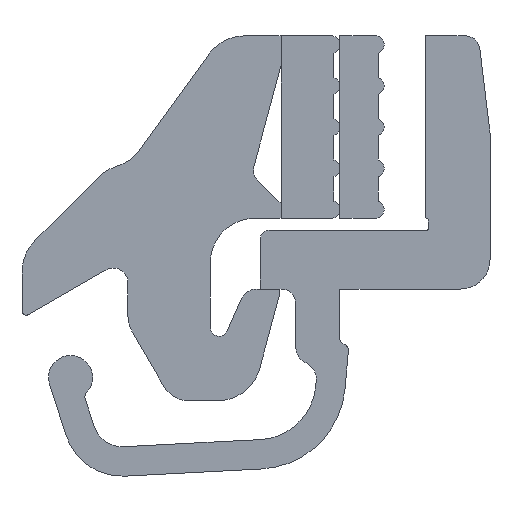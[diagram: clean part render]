
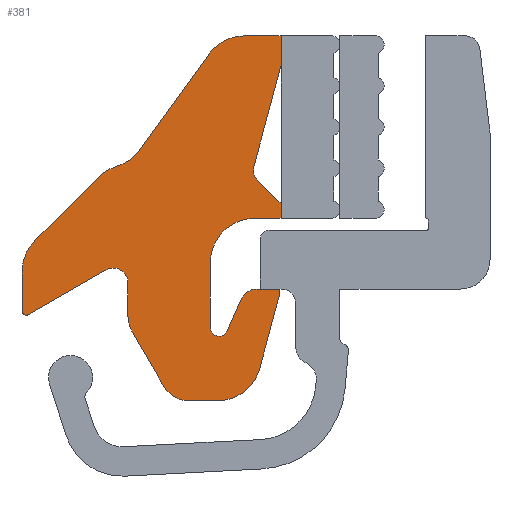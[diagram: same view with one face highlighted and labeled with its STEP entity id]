
A CAD part, front view. The second image highlights one B-rep face of the part: STEP entity #381.
In plain terms, the highlighted planar face has unit normal (0, -1, 0).
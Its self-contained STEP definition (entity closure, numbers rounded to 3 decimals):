
#381=ADVANCED_FACE('',(#715),#716,.T.);
#715=FACE_OUTER_BOUND('',#1039,.T.);
#716=PLANE('',#1040);
#1039=EDGE_LOOP('',(#1780,#1781,#1782,#1783,#1784,#1785,#1786,#1787,#1788,#1789,#1790,#1791,#1792,#1793,#1794,#1795,#1796,#1797,#1798,#1799,#1800,#1801,#1802,#1803,#1804,#1805,#1806,#1807,#1808,#1809,#1810));
#1040=AXIS2_PLACEMENT_3D('',#1811,#1812,#1813);
#1780=ORIENTED_EDGE('',*,*,#2258,.T.);
#1781=ORIENTED_EDGE('',*,*,#2261,.T.);
#1782=ORIENTED_EDGE('',*,*,#2264,.T.);
#1783=ORIENTED_EDGE('',*,*,#2267,.T.);
#1784=ORIENTED_EDGE('',*,*,#2270,.T.);
#1785=ORIENTED_EDGE('',*,*,#2273,.T.);
#1786=ORIENTED_EDGE('',*,*,#2276,.T.);
#1787=ORIENTED_EDGE('',*,*,#2279,.T.);
#1788=ORIENTED_EDGE('',*,*,#2282,.T.);
#1789=ORIENTED_EDGE('',*,*,#2285,.T.);
#1790=ORIENTED_EDGE('',*,*,#2288,.T.);
#1791=ORIENTED_EDGE('',*,*,#2291,.T.);
#1792=ORIENTED_EDGE('',*,*,#2294,.T.);
#1793=ORIENTED_EDGE('',*,*,#2297,.T.);
#1794=ORIENTED_EDGE('',*,*,#2300,.T.);
#1795=ORIENTED_EDGE('',*,*,#2303,.T.);
#1796=ORIENTED_EDGE('',*,*,#2306,.T.);
#1797=ORIENTED_EDGE('',*,*,#2309,.T.);
#1798=ORIENTED_EDGE('',*,*,#2312,.T.);
#1799=ORIENTED_EDGE('',*,*,#2315,.T.);
#1800=ORIENTED_EDGE('',*,*,#2318,.T.);
#1801=ORIENTED_EDGE('',*,*,#2321,.T.);
#1802=ORIENTED_EDGE('',*,*,#2324,.T.);
#1803=ORIENTED_EDGE('',*,*,#2327,.T.);
#1804=ORIENTED_EDGE('',*,*,#2330,.T.);
#1805=ORIENTED_EDGE('',*,*,#2333,.T.);
#1806=ORIENTED_EDGE('',*,*,#2336,.T.);
#1807=ORIENTED_EDGE('',*,*,#2339,.T.);
#1808=ORIENTED_EDGE('',*,*,#2342,.T.);
#1809=ORIENTED_EDGE('',*,*,#2255,.T.);
#1810=ORIENTED_EDGE('',*,*,#2219,.T.);
#1811=CARTESIAN_POINT('',(6.7,0.0,2.495));
#1812=DIRECTION('',(0.0,-1.0,0.0));
#1813=DIRECTION('',(-1.0,0.0,0.0));
#2219=EDGE_CURVE('',#2663,#2664,#2665,.T.);
#2255=EDGE_CURVE('',#2732,#2663,#2733,.T.);
#2258=EDGE_CURVE('',#2664,#2736,#2737,.T.);
#2261=EDGE_CURVE('',#2736,#2740,#2741,.T.);
#2264=EDGE_CURVE('',#2740,#2744,#2745,.T.);
#2267=EDGE_CURVE('',#2744,#2748,#2749,.T.);
#2270=EDGE_CURVE('',#2748,#2752,#2753,.T.);
#2273=EDGE_CURVE('',#2752,#2756,#2757,.T.);
#2276=EDGE_CURVE('',#2756,#2760,#2761,.T.);
#2279=EDGE_CURVE('',#2760,#2764,#2765,.T.);
#2282=EDGE_CURVE('',#2764,#2768,#2769,.T.);
#2285=EDGE_CURVE('',#2768,#2772,#2773,.T.);
#2288=EDGE_CURVE('',#2772,#2776,#2777,.T.);
#2291=EDGE_CURVE('',#2776,#2780,#2781,.T.);
#2294=EDGE_CURVE('',#2780,#2784,#2785,.T.);
#2297=EDGE_CURVE('',#2784,#2788,#2789,.T.);
#2300=EDGE_CURVE('',#2788,#2792,#2793,.T.);
#2303=EDGE_CURVE('',#2792,#2796,#2797,.T.);
#2306=EDGE_CURVE('',#2796,#2800,#2801,.T.);
#2309=EDGE_CURVE('',#2800,#2804,#2805,.T.);
#2312=EDGE_CURVE('',#2804,#2808,#2809,.T.);
#2315=EDGE_CURVE('',#2808,#2812,#2813,.T.);
#2318=EDGE_CURVE('',#2812,#2816,#2817,.T.);
#2321=EDGE_CURVE('',#2816,#2820,#2821,.T.);
#2324=EDGE_CURVE('',#2820,#2824,#2825,.T.);
#2327=EDGE_CURVE('',#2824,#2828,#2829,.T.);
#2330=EDGE_CURVE('',#2828,#2832,#2833,.T.);
#2333=EDGE_CURVE('',#2832,#2836,#2837,.T.);
#2336=EDGE_CURVE('',#2836,#2840,#2841,.T.);
#2339=EDGE_CURVE('',#2840,#2844,#2845,.T.);
#2342=EDGE_CURVE('',#2844,#2732,#2848,.T.);
#2663=VERTEX_POINT('',#3291);
#2664=VERTEX_POINT('',#3292);
#2665=CIRCLE('',#3293,0.6);
#2732=VERTEX_POINT('',#3379);
#2733=LINE('',#3380,#3381);
#2736=VERTEX_POINT('',#3385);
#2737=LINE('',#3386,#3387);
#2740=VERTEX_POINT('',#3391);
#2741=CIRCLE('',#3392,0.3);
#2744=VERTEX_POINT('',#3396);
#2745=LINE('',#3397,#3398);
#2748=VERTEX_POINT('',#3402);
#2749=CIRCLE('',#3403,1.5);
#2752=VERTEX_POINT('',#3407);
#2753=LINE('',#3408,#3409);
#2756=VERTEX_POINT('',#3413);
#2757=LINE('',#3414,#3415);
#2760=VERTEX_POINT('',#3419);
#2761=LINE('',#3420,#3421);
#2764=VERTEX_POINT('',#3425);
#2765=CIRCLE('',#3426,0.5);
#2768=VERTEX_POINT('',#3430);
#2769=LINE('',#3431,#3432);
#2772=VERTEX_POINT('',#3436);
#2773=LINE('',#3437,#3438);
#2776=VERTEX_POINT('',#3442);
#2777=LINE('',#3443,#3444);
#2780=VERTEX_POINT('',#3448);
#2781=CIRCLE('',#3449,1.5);
#2784=VERTEX_POINT('',#3453);
#2785=LINE('',#3454,#3455);
#2788=VERTEX_POINT('',#3459);
#2789=CIRCLE('',#3460,1.5);
#2792=VERTEX_POINT('',#3464);
#2793=CIRCLE('',#3465,1.5);
#2796=VERTEX_POINT('',#3469);
#2797=LINE('',#3470,#3471);
#2800=VERTEX_POINT('',#3475);
#2801=CIRCLE('',#3476,1.5);
#2804=VERTEX_POINT('',#3480);
#2805=LINE('',#3481,#3482);
#2808=VERTEX_POINT('',#3486);
#2809=CIRCLE('',#3487,0.15);
#2812=VERTEX_POINT('',#3491);
#2813=LINE('',#3492,#3493);
#2816=VERTEX_POINT('',#3497);
#2817=CIRCLE('',#3498,0.5);
#2820=VERTEX_POINT('',#3502);
#2821=LINE('',#3503,#3504);
#2824=VERTEX_POINT('',#3508);
#2825=CIRCLE('',#3509,1.);
#2828=VERTEX_POINT('',#3513);
#2829=LINE('',#3514,#3515);
#2832=VERTEX_POINT('',#3519);
#2833=CIRCLE('',#3520,1.);
#2836=VERTEX_POINT('',#3524);
#2837=LINE('',#3525,#3526);
#2840=VERTEX_POINT('',#3530);
#2841=CIRCLE('',#3531,1.5);
#2844=VERTEX_POINT('',#3535);
#2845=LINE('',#3536,#3537);
#2848=CIRCLE('',#3541,0.12);
#3291=CARTESIAN_POINT('',(7.992,0.0,3.8));
#3292=CARTESIAN_POINT('',(7.443,0.0,3.441));
#3293=AXIS2_PLACEMENT_3D('',#3919,#3920,#3921);
#3379=CARTESIAN_POINT('',(8.644,0.0,3.8));
#3380=CARTESIAN_POINT('',(8.644,0.0,3.8));
#3381=VECTOR('',#3983,1.0);
#3385=CARTESIAN_POINT('',(6.96,0.0,2.345));
#3386=CARTESIAN_POINT('',(7.443,0.0,3.441));
#3387=VECTOR('',#3985,1.0);
#3391=CARTESIAN_POINT('',(6.4,0.0,2.495));
#3392=AXIS2_PLACEMENT_3D('',#3987,#3988,#3989);
#3396=CARTESIAN_POINT('',(6.4,0.0,4.7));
#3397=CARTESIAN_POINT('',(6.4,0.0,2.495));
#3398=VECTOR('',#3991,1.0);
#3402=CARTESIAN_POINT('',(7.9,0.0,6.2));
#3403=AXIS2_PLACEMENT_3D('',#3993,#3994,#3995);
#3407=CARTESIAN_POINT('',(8.8,0.0,6.2));
#3408=CARTESIAN_POINT('',(7.9,0.0,6.2));
#3409=VECTOR('',#3997,1.0);
#3413=CARTESIAN_POINT('',(8.8,0.0,6.7));
#3414=CARTESIAN_POINT('',(8.8,0.0,6.2));
#3415=VECTOR('',#3999,1.0);
#3419=CARTESIAN_POINT('',(8.011,0.0,7.489));
#3420=CARTESIAN_POINT('',(8.8,0.0,6.7));
#3421=VECTOR('',#4001,1.0);
#3425=CARTESIAN_POINT('',(7.881,0.0,7.972));
#3426=AXIS2_PLACEMENT_3D('',#4003,#4004,#4005);
#3430=CARTESIAN_POINT('',(8.8,0.0,11.4));
#3431=CARTESIAN_POINT('',(7.881,0.0,7.972));
#3432=VECTOR('',#4007,1.0);
#3436=CARTESIAN_POINT('',(8.8,0.0,12.4));
#3437=CARTESIAN_POINT('',(8.8,0.0,11.4));
#3438=VECTOR('',#4009,1.0);
#3442=CARTESIAN_POINT('',(7.564,0.0,12.4));
#3443=CARTESIAN_POINT('',(8.8,0.0,12.4));
#3444=VECTOR('',#4011,1.0);
#3448=CARTESIAN_POINT('',(6.351,0.0,11.782));
#3449=AXIS2_PLACEMENT_3D('',#4013,#4014,#4015);
#3453=CARTESIAN_POINT('',(3.98,0.0,8.518));
#3454=CARTESIAN_POINT('',(6.351,0.0,11.782));
#3455=VECTOR('',#4017,1.0);
#3459=CARTESIAN_POINT('',(3.211,0.0,7.968));
#3460=AXIS2_PLACEMENT_3D('',#4019,#4020,#4021);
#3464=CARTESIAN_POINT('',(2.596,0.0,7.596));
#3465=AXIS2_PLACEMENT_3D('',#4023,#4024,#4025);
#3469=CARTESIAN_POINT('',(0.439,0.0,5.439));
#3470=CARTESIAN_POINT('',(2.596,0.0,7.596));
#3471=VECTOR('',#4027,1.0);
#3475=CARTESIAN_POINT('',(0.,0.0,4.379));
#3476=AXIS2_PLACEMENT_3D('',#4029,#4030,#4031);
#3480=CARTESIAN_POINT('',(0.,0.0,3.06));
#3481=CARTESIAN_POINT('',(0.,0.0,4.379));
#3482=VECTOR('',#4033,1.0);
#3486=CARTESIAN_POINT('',(0.225,0.0,2.93));
#3487=AXIS2_PLACEMENT_3D('',#4035,#4036,#4037);
#3491=CARTESIAN_POINT('',(2.85,0.0,4.445));
#3492=CARTESIAN_POINT('',(0.225,0.0,2.93));
#3493=VECTOR('',#4039,1.0);
#3497=CARTESIAN_POINT('',(3.6,0.0,4.012));
#3498=AXIS2_PLACEMENT_3D('',#4041,#4042,#4043);
#3502=CARTESIAN_POINT('',(3.6,0.0,2.868));
#3503=CARTESIAN_POINT('',(3.6,0.0,4.012));
#3504=VECTOR('',#4045,1.0);
#3508=CARTESIAN_POINT('',(3.734,0.0,2.368));
#3509=AXIS2_PLACEMENT_3D('',#4047,#4048,#4049);
#3513=CARTESIAN_POINT('',(4.812,0.0,0.5));
#3514=CARTESIAN_POINT('',(3.734,0.0,2.368));
#3515=VECTOR('',#4051,1.0);
#3519=CARTESIAN_POINT('',(5.678,0.0,0.));
#3520=AXIS2_PLACEMENT_3D('',#4053,#4054,#4055);
#3524=CARTESIAN_POINT('',(6.631,0.0,0.));
#3525=CARTESIAN_POINT('',(5.678,0.0,0.));
#3526=VECTOR('',#4057,1.0);
#3530=CARTESIAN_POINT('',(8.08,0.0,1.112));
#3531=AXIS2_PLACEMENT_3D('',#4059,#4060,#4061);
#3535=CARTESIAN_POINT('',(8.76,0.0,3.649));
#3536=CARTESIAN_POINT('',(8.08,0.0,1.112));
#3537=VECTOR('',#4063,1.0);
#3541=AXIS2_PLACEMENT_3D('',#4065,#4066,#4067);
#3919=CARTESIAN_POINT('',(7.992,0.0,3.2));
#3920=DIRECTION('',(0.0,-1.0,0.0));
#3921=DIRECTION('',(1.0,0.0,0.0));
#3983=DIRECTION('',(-1.0,0.0,0.));
#3985=DIRECTION('',(-0.403,0.0,-0.915));
#3987=CARTESIAN_POINT('',(6.7,0.0,2.495));
#3988=DIRECTION('',(0.0,1.0,0.0));
#3989=DIRECTION('',(-1.0,0.0,0.0));
#3991=DIRECTION('',(0.,0.0,1.0));
#3993=CARTESIAN_POINT('',(7.9,0.0,4.7));
#3994=DIRECTION('',(0.0,1.0,0.0));
#3995=DIRECTION('',(-1.0,0.0,0.0));
#3997=DIRECTION('',(1.0,0.0,0.0));
#3999=DIRECTION('',(0.0,0.0,1.0));
#4001=DIRECTION('',(-0.707,0.0,0.707));
#4003=CARTESIAN_POINT('',(8.364,0.0,7.843));
#4004=DIRECTION('',(0.0,1.0,0.0));
#4005=DIRECTION('',(-1.0,0.0,0.0));
#4007=DIRECTION('',(0.259,0.0,0.966));
#4009=DIRECTION('',(0.0,0.0,1.0));
#4011=DIRECTION('',(-1.0,0.0,0.0));
#4013=CARTESIAN_POINT('',(7.564,0.0,10.9));
#4014=DIRECTION('',(0.0,-1.0,0.0));
#4015=DIRECTION('',(1.0,0.0,0.0));
#4017=DIRECTION('',(-0.588,0.0,-0.809));
#4019=CARTESIAN_POINT('',(2.766,0.0,9.4));
#4020=DIRECTION('',(0.0,1.0,0.0));
#4021=DIRECTION('',(-1.0,0.0,0.0));
#4023=CARTESIAN_POINT('',(3.656,0.0,6.535));
#4024=DIRECTION('',(0.0,-1.0,0.0));
#4025=DIRECTION('',(1.0,0.0,0.0));
#4027=DIRECTION('',(-0.707,0.0,-0.707));
#4029=CARTESIAN_POINT('',(1.5,0.0,4.379));
#4030=DIRECTION('',(0.0,-1.0,0.0));
#4031=DIRECTION('',(1.0,0.0,0.0));
#4033=DIRECTION('',(0.0,0.0,-1.0));
#4035=CARTESIAN_POINT('',(0.15,0.0,3.06));
#4036=DIRECTION('',(0.0,-1.0,0.0));
#4037=DIRECTION('',(1.0,0.0,0.0));
#4039=DIRECTION('',(0.866,0.0,0.5));
#4041=CARTESIAN_POINT('',(3.1,0.0,4.012));
#4042=DIRECTION('',(0.0,1.0,0.0));
#4043=DIRECTION('',(-1.0,0.0,0.0));
#4045=DIRECTION('',(0.0,0.0,-1.0));
#4047=CARTESIAN_POINT('',(4.6,0.0,2.868));
#4048=DIRECTION('',(0.0,-1.0,0.0));
#4049=DIRECTION('',(1.0,0.0,0.0));
#4051=DIRECTION('',(0.5,0.0,-0.866));
#4053=CARTESIAN_POINT('',(5.678,0.0,1.));
#4054=DIRECTION('',(0.0,-1.0,0.0));
#4055=DIRECTION('',(1.0,0.0,0.0));
#4057=DIRECTION('',(1.0,0.0,0.0));
#4059=CARTESIAN_POINT('',(6.631,0.0,1.5));
#4060=DIRECTION('',(0.0,-1.0,0.0));
#4061=DIRECTION('',(1.0,0.0,0.0));
#4063=DIRECTION('',(0.259,0.0,0.966));
#4065=CARTESIAN_POINT('',(8.644,0.0,3.68));
#4066=DIRECTION('',(0.0,-1.0,0.0));
#4067=DIRECTION('',(1.0,0.0,0.0));
